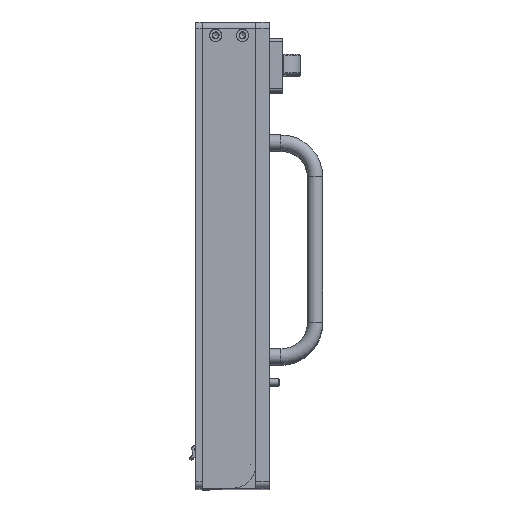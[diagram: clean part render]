
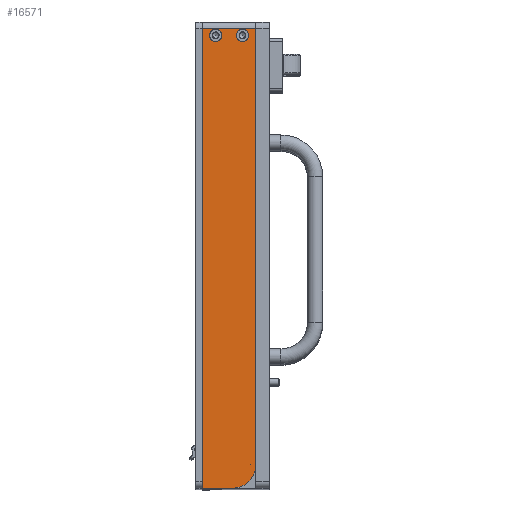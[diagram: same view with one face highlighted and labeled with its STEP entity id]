
A CAD part, top view. The second image highlights one B-rep face of the part: STEP entity #16571.
In plain terms, the highlighted planar face has unit normal (0, 0, 1).
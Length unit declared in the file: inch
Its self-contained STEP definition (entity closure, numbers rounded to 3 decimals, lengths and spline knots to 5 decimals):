
#15925=CARTESIAN_POINT('',(0.6209,5.81292,3.56557));
#15926=VERTEX_POINT('',#15925);
#15950=CARTESIAN_POINT('',(0.6209,-2.78083,3.56557));
#15951=VERTEX_POINT('',#15950);
#15958=CARTESIAN_POINT('',(0.6209,5.81292,3.56557));
#15959=DIRECTION('',(0.0,-1.0,0.0));
#15960=VECTOR('',#15959,8.59375);
#15961=LINE('',#15958,#15960);
#15962=EDGE_CURVE('',#15926,#15951,#15961,.T.);
#15983=CARTESIAN_POINT('',(1.52715,-2.34283,3.56557));
#15984=VERTEX_POINT('',#15983);
#15985=CARTESIAN_POINT('',(1.52715,-2.34333,3.56557));
#15986=DIRECTION('',(0.0,0.0,-1.0));
#15987=DIRECTION('',(0.0,-1.0,0.0));
#15988=AXIS2_PLACEMENT_3D('',#15985,#15986,#15987);
#15989=CIRCLE('',#15988,0.0005);
#15990=EDGE_CURVE('',#15984,#15984,#15989,.T.);
#16012=CARTESIAN_POINT('',(1.6209,5.81292,3.56557));
#16013=VERTEX_POINT('',#16012);
#16014=CARTESIAN_POINT('',(0.6209,5.81292,3.56557));
#16015=DIRECTION('',(1.0,0.0,0.0));
#16016=VECTOR('',#16015,1.0);
#16017=LINE('',#16014,#16016);
#16018=EDGE_CURVE('',#15926,#16013,#16017,.T.);
#16068=CARTESIAN_POINT('',(1.6209,-2.34333,3.56557));
#16069=VERTEX_POINT('',#16068);
#16070=CARTESIAN_POINT('',(1.6209,-2.34333,3.56557));
#16071=DIRECTION('',(0.0,1.0,0.0));
#16072=VECTOR('',#16071,8.15625);
#16073=LINE('',#16070,#16072);
#16074=EDGE_CURVE('',#16069,#16013,#16073,.T.);
#16367=CARTESIAN_POINT('',(1.25371,5.68792,3.56557));
#16368=VERTEX_POINT('',#16367);
#16369=CARTESIAN_POINT('',(1.3709,5.68792,3.56557));
#16370=DIRECTION('',(0.0,0.0,-1.0));
#16371=DIRECTION('',(-1.0,0.0,0.0));
#16372=AXIS2_PLACEMENT_3D('',#16369,#16370,#16371);
#16373=CIRCLE('',#16372,0.11719);
#16374=EDGE_CURVE('',#16368,#16368,#16373,.T.);
#16435=CARTESIAN_POINT('',(0.75371,5.68792,3.56557));
#16436=VERTEX_POINT('',#16435);
#16437=CARTESIAN_POINT('',(0.8709,5.68792,3.56557));
#16438=DIRECTION('',(0.0,0.0,-1.0));
#16439=DIRECTION('',(-1.0,0.0,0.0));
#16440=AXIS2_PLACEMENT_3D('',#16437,#16438,#16439);
#16441=CIRCLE('',#16440,0.11719);
#16442=EDGE_CURVE('',#16436,#16436,#16441,.T.);
#16483=CARTESIAN_POINT('',(1.1834,-2.78083,3.56557));
#16484=VERTEX_POINT('',#16483);
#16491=CARTESIAN_POINT('',(0.6209,-2.78083,3.56557));
#16492=DIRECTION('',(1.0,0.0,0.0));
#16493=VECTOR('',#16492,0.5625);
#16494=LINE('',#16491,#16493);
#16495=EDGE_CURVE('',#15951,#16484,#16494,.T.);
#16514=CARTESIAN_POINT('',(1.1834,-2.34333,3.56557));
#16515=DIRECTION('',(0.0,0.0,1.0));
#16516=DIRECTION('',(-1.0,0.0,0.0));
#16517=AXIS2_PLACEMENT_3D('',#16514,#16515,#16516);
#16518=CIRCLE('',#16517,0.4375);
#16519=EDGE_CURVE('',#16484,#16069,#16518,.T.);
#16550=CARTESIAN_POINT('',(1.1151,1.62199,3.56557));
#16551=DIRECTION('',(0.0,0.0,-1.0));
#16552=DIRECTION('',(0.0,-1.0,0.0));
#16553=AXIS2_PLACEMENT_3D('',#16550,#16551,#16552);
#16554=PLANE('',#16553);
#16555=ORIENTED_EDGE('',*,*,#16018,.F.);
#16556=ORIENTED_EDGE('',*,*,#15962,.T.);
#16557=ORIENTED_EDGE('',*,*,#16495,.T.);
#16558=ORIENTED_EDGE('',*,*,#16519,.T.);
#16559=ORIENTED_EDGE('',*,*,#16074,.T.);
#16560=EDGE_LOOP('',(#16555,#16556,#16557,#16558,#16559));
#16561=FACE_OUTER_BOUND('',#16560,.T.);
#16562=ORIENTED_EDGE('',*,*,#15990,.T.);
#16563=EDGE_LOOP('',(#16562));
#16564=FACE_BOUND('',#16563,.T.);
#16565=ORIENTED_EDGE('',*,*,#16374,.T.);
#16566=EDGE_LOOP('',(#16565));
#16567=FACE_BOUND('',#16566,.T.);
#16568=ORIENTED_EDGE('',*,*,#16442,.T.);
#16569=EDGE_LOOP('',(#16568));
#16570=FACE_BOUND('',#16569,.T.);
#16571=ADVANCED_FACE('',(#16561,#16564,#16567,#16570),#16554,.F.);
